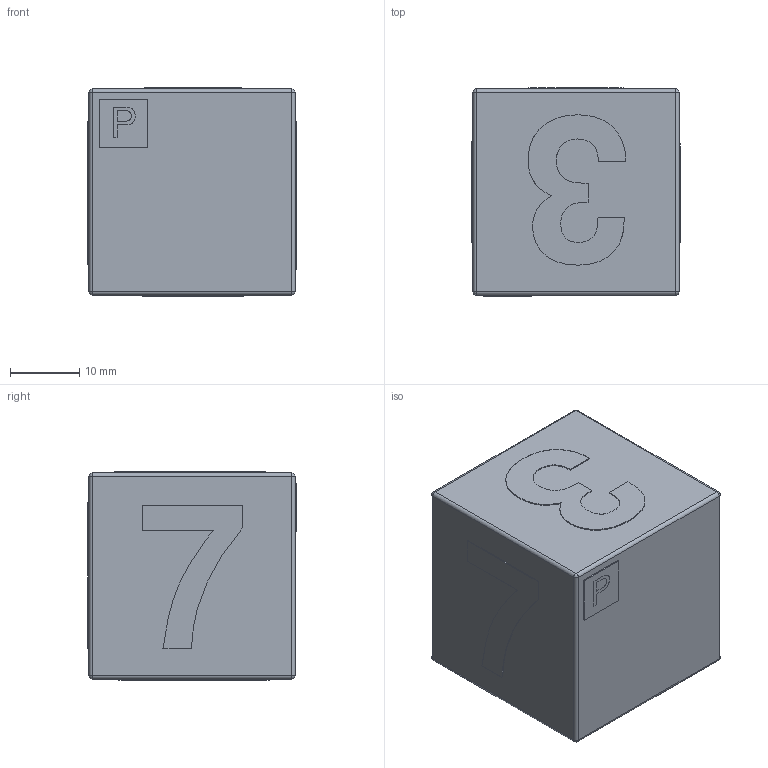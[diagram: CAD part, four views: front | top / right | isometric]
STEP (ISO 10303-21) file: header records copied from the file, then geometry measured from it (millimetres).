
FILE_DESCRIPTION(('Open CASCADE Model'),'2;1');
FILE_NAME('Open CASCADE Shape Model','2025-09-14T20:47:15',('Author'),( 'Open CASCADE'),'Open CASCADE STEP processor 7.8','Open CASCADE 7.8' ,'Unknown');
FILE_SCHEMA(('AUTOMOTIVE_DESIGN { 1 0 10303 214 1 1 1 1 }'));
Length unit declared in the file: millimetre
Products named in the file (18): 9d5444b6-91a3-11f0-88d2-1c1b0deae66b; 9d54468c-91a3-11f0-88d2-1c1b0deae66b; 9d54468c-91a3-11f0-88d2-1c1b0deae66b_part; 9d56baf2-91a3-11f0-88d2-1c1b0deae66b; 9d56baf2-91a3-11f0-88d2-1c1b0deae66b_part; 9d584e3a-91a3-11f0-88d2-1c1b0deae66b; 9d584e3a-91a3-11f0-88d2-1c1b0deae66b_part; 9d598d68-91a3-11f0-88d2-1c1b0deae66b; 9d598d68-91a3-11f0-88d2-1c1b0deae66b_part; 9d5b3a5a-91a3-11f0-88d2-1c1b0deae66b; 9d5b3a5a-91a3-11f0-88d2-1c1b0deae66b_part; 9d5cf6b0-91a3-11f0-88d2-1c1b0deae66b; 9d5cf6b0-91a3-11f0-88d2-1c1b0deae66b_part; 9d65d47e-91a3-11f0-88d2-1c1b0deae66b; 9d65d47e-91a3-11f0-88d2-1c1b0deae66b_part; 9d65d5c8-91a3-11f0-88d2-1c1b0deae66b; 9d65d5c8-91a3-11f0-88d2-1c1b0deae66b_part
Assembly tree (17 placements, depth 4):
  9d5444b6-91a3-11f0-88d2-1c1b0deae66b
    9d5444b6-91a3-11f0-88d2-1c1b0deae66b
      9d54468c-91a3-11f0-88d2-1c1b0deae66b
        9d54468c-91a3-11f0-88d2-1c1b0deae66b_part
      9d56baf2-91a3-11f0-88d2-1c1b0deae66b
        9d56baf2-91a3-11f0-88d2-1c1b0deae66b_part
      9d584e3a-91a3-11f0-88d2-1c1b0deae66b
        9d584e3a-91a3-11f0-88d2-1c1b0deae66b_part
      9d598d68-91a3-11f0-88d2-1c1b0deae66b
        9d598d68-91a3-11f0-88d2-1c1b0deae66b_part
      9d5b3a5a-91a3-11f0-88d2-1c1b0deae66b
        9d5b3a5a-91a3-11f0-88d2-1c1b0deae66b_part
      9d5cf6b0-91a3-11f0-88d2-1c1b0deae66b
        9d5cf6b0-91a3-11f0-88d2-1c1b0deae66b_part
      9d65d47e-91a3-11f0-88d2-1c1b0deae66b
        9d65d47e-91a3-11f0-88d2-1c1b0deae66b_part
      9d65d5c8-91a3-11f0-88d2-1c1b0deae66b
        9d65d5c8-91a3-11f0-88d2-1c1b0deae66b_part
Bounding box: 30 x 30 x 30 mm (x, y, z)
Volume: 26306.9 mm3; surface area: 7000.5 mm2
Topology: 9 solids, 9 shells, 196 faces, 518 edges, 332 vertices
Faces by surface type: extrusion 101, plane 75, cylinder 12, sphere 8
Entity records: 13055 total; most frequent: CARTESIAN_POINT 3118, DIRECTION 1445, VECTOR 1171, LINE 1070, ORIENTED_EDGE 1020, PCURVE 1020, DEFINITIONAL_REPRESENTATION 1020, B_SPLINE_CURVE_WITH_KNOTS 537
